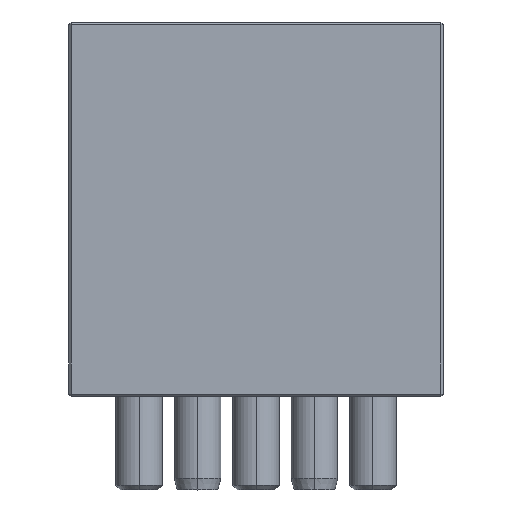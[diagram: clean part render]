
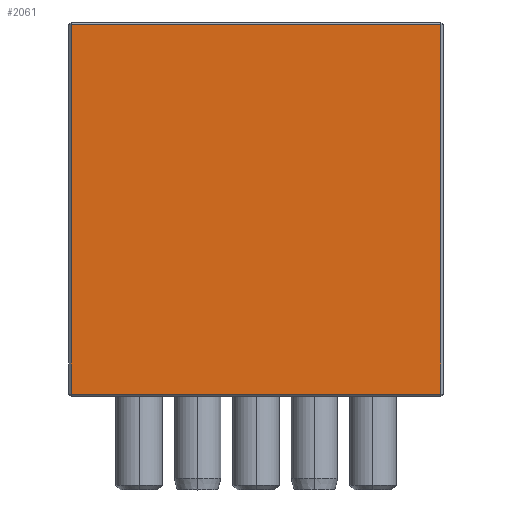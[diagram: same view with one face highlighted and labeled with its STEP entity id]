
A CAD part, front view. The second image highlights one B-rep face of the part: STEP entity #2061.
In plain terms, the highlighted planar face has unit normal (0, -1, 0).
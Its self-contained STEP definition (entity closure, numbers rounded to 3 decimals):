
#2034=AXIS2_PLACEMENT_3D('Plane Axis2P3D',#2031,#2032,#2033) ;
#623=CARTESIAN_POINT('Vertex',(-39.5,-30.,79.5)) ;
#630=CARTESIAN_POINT('Vertex',(-39.5,-30.,0.5)) ;
#633=CARTESIAN_POINT('Line Origine',(-39.5,-30.,40.)) ;
#2031=CARTESIAN_POINT('Axis2P3D Location',(-40.,-30.,0.)) ;
#2036=CARTESIAN_POINT('Line Origine',(0.,-30.,79.5)) ;
#2040=CARTESIAN_POINT('Vertex',(39.5,-30.,79.5)) ;
#2043=CARTESIAN_POINT('Line Origine',(0.,-30.,0.5)) ;
#2047=CARTESIAN_POINT('Vertex',(39.5,-30.,0.5)) ;
#2050=CARTESIAN_POINT('Line Origine',(39.5,-30.,40.)) ;
#634=DIRECTION('Vector Direction',(0.,0.,1.)) ;
#2032=DIRECTION('Axis2P3D Direction',(0.,-1.,0.)) ;
#2033=DIRECTION('Axis2P3D XDirection',(1.,0.,0.)) ;
#2037=DIRECTION('Vector Direction',(1.,0.,0.)) ;
#2044=DIRECTION('Vector Direction',(-1.,0.,0.)) ;
#2051=DIRECTION('Vector Direction',(0.,0.,-1.)) ;
#635=VECTOR('Line Direction',#634,1.) ;
#2038=VECTOR('Line Direction',#2037,1.) ;
#2045=VECTOR('Line Direction',#2044,1.) ;
#2052=VECTOR('Line Direction',#2051,1.) ;
#2056=ORIENTED_EDGE('',*,*,#2042,.F.) ;
#2057=ORIENTED_EDGE('',*,*,#637,.F.) ;
#2058=ORIENTED_EDGE('',*,*,#2049,.F.) ;
#2059=ORIENTED_EDGE('',*,*,#2054,.F.) ;
#2061=ADVANCED_FACE('MANIFOLD_SOLID_BREP #2331',(#2060),#2035,.T.) ;
#637=EDGE_CURVE('',#631,#624,#636,.T.) ;
#2042=EDGE_CURVE('',#624,#2041,#2039,.T.) ;
#2049=EDGE_CURVE('',#2048,#631,#2046,.T.) ;
#2054=EDGE_CURVE('',#2041,#2048,#2053,.T.) ;
#2055=EDGE_LOOP('',(#2056,#2057,#2058,#2059)) ;
#2060=FACE_OUTER_BOUND('',#2055,.T.) ;
#636=LINE('Line',#633,#635) ;
#2039=LINE('Line',#2036,#2038) ;
#2046=LINE('Line',#2043,#2045) ;
#2053=LINE('Line',#2050,#2052) ;
#2035=PLANE('Plane',#2034) ;
#624=VERTEX_POINT('',#623) ;
#631=VERTEX_POINT('',#630) ;
#2041=VERTEX_POINT('',#2040) ;
#2048=VERTEX_POINT('',#2047) ;
